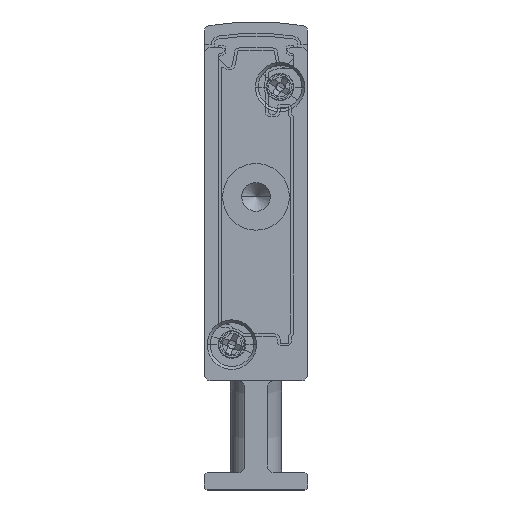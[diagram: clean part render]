
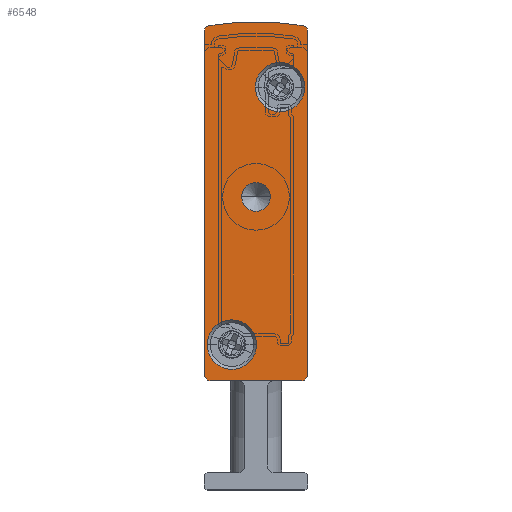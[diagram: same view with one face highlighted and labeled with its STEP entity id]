
A CAD part, front view. The second image highlights one B-rep face of the part: STEP entity #6548.
In plain terms, the highlighted planar face has unit normal (0, -1, 0).
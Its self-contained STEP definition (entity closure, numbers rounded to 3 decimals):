
#19 = DIRECTION ( 'NONE',  ( 1., 0., 0. ) ) ;
#173 = CARTESIAN_POINT ( 'NONE',  ( 0., -2.5, 39.902 ) ) ;
#204 = CARTESIAN_POINT ( 'NONE',  ( 3.25, -2.5, 25.5 ) ) ;
#367 = AXIS2_PLACEMENT_3D ( 'NONE', #15614, #6646, #6521 ) ;
#454 = ORIENTED_EDGE ( 'NONE', *, *, #4058, .F. ) ;
#587 = VERTEX_POINT ( 'NONE', #173 ) ;
#608 = DIRECTION ( 'NONE',  ( 0., 1., 0. ) ) ;
#1045 = DIRECTION ( 'NONE',  ( 0., 0., 1. ) ) ;
#1383 = DIRECTION ( 'NONE',  ( 1., 0., 0. ) ) ;
#1515 = DIRECTION ( 'NONE',  ( 0., -1., 0. ) ) ;
#1533 = AXIS2_PLACEMENT_3D ( 'NONE', #16609, #7715, #18139 ) ;
#1563 = FACE_BOUND ( 'NONE', #18233, .T. ) ;
#1727 = DIRECTION ( 'NONE',  ( 0., -1., 0. ) ) ;
#2355 = CARTESIAN_POINT ( 'NONE',  ( 9., -2.5, 10. ) ) ;
#2459 = CARTESIAN_POINT ( 'NONE',  ( 4.45, -2.5, 35.05 ) ) ;
#2589 = CARTESIAN_POINT ( 'NONE',  ( 9., -2.5, 39.902 ) ) ;
#2668 = LINE ( 'NONE', #5719, #3137 ) ;
#2708 = CARTESIAN_POINT ( 'NONE',  ( 0.5, -2.5, 39.902 ) ) ;
#2852 = EDGE_CURVE ( 'NONE', #7794, #12872, #12304, .T. ) ;
#2905 = CARTESIAN_POINT ( 'NONE',  ( 5.75, -2.5, 25.5 ) ) ;
#2996 = CARTESIAN_POINT ( 'NONE',  ( 9., -2.5, 39.902 ) ) ;
#3137 = VECTOR ( 'NONE', #13089, 1000. ) ;
#3443 = VERTEX_POINT ( 'NONE', #8989 ) ;
#3733 = CIRCLE ( 'NONE', #8947, 0.5 ) ;
#3795 = VERTEX_POINT ( 'NONE', #16052 ) ;
#3996 = VERTEX_POINT ( 'NONE', #2996 ) ;
#4058 = EDGE_CURVE ( 'NONE', #11256, #3996, #15436, .T. ) ;
#4439 = EDGE_LOOP ( 'NONE', ( #8502, #9771 ) ) ;
#5079 = EDGE_CURVE ( 'NONE', #9046, #8420, #16563, .T. ) ;
#5267 = CARTESIAN_POINT ( 'NONE',  ( 2.4, -2.5, 12.65 ) ) ;
#5420 = CARTESIAN_POINT ( 'NONE',  ( 0.5, -2.5, 39.902 ) ) ;
#5578 = AXIS2_PLACEMENT_3D ( 'NONE', #5420, #11440, #6941 ) ;
#5614 = DIRECTION ( 'NONE',  ( 0., 0., -1. ) ) ;
#5670 = ORIENTED_EDGE ( 'NONE', *, *, #5079, .F. ) ;
#5719 = CARTESIAN_POINT ( 'NONE',  ( 0.5, -2.5, 9.5 ) ) ;
#6125 = AXIS2_PLACEMENT_3D ( 'NONE', #5267, #8604, #11284 ) ;
#6188 = CIRCLE ( 'NONE', #19422, 0.5 ) ;
#6416 = DIRECTION ( 'NONE',  ( 0., 1., 0. ) ) ;
#6521 = DIRECTION ( 'NONE',  ( -1., 0., 0. ) ) ;
#6548 = ADVANCED_FACE ( 'NONE', ( #17739, #17025, #16057, #1563 ), #14714, .F. ) ;
#6576 = CARTESIAN_POINT ( 'NONE',  ( 4.5, -2.5, 17.092 ) ) ;
#6603 = EDGE_CURVE ( 'NONE', #3996, #13215, #10363, .T. ) ;
#6621 = EDGE_LOOP ( 'NONE', ( #7239, #16231, #16847, #17336, #13691, #15587, #454, #17769 ) ) ;
#6646 = DIRECTION ( 'NONE',  ( 0., 1., 0. ) ) ;
#6707 = CARTESIAN_POINT ( 'NONE',  ( 0.5, -2.5, 10. ) ) ;
#6765 = VECTOR ( 'NONE', #1045, 1000. ) ;
#6941 = DIRECTION ( 'NONE',  ( -1., 0., 0. ) ) ;
#7239 = ORIENTED_EDGE ( 'NONE', *, *, #14497, .F. ) ;
#7632 = EDGE_CURVE ( 'NONE', #14571, #10947, #12674, .T. ) ;
#7715 = DIRECTION ( 'NONE',  ( 0., 1., 0. ) ) ;
#7745 = VECTOR ( 'NONE', #5614, 1000. ) ;
#7794 = VERTEX_POINT ( 'NONE', #12625 ) ;
#8079 = EDGE_CURVE ( 'NONE', #12872, #7794, #18311, .T. ) ;
#8420 = VERTEX_POINT ( 'NONE', #2459 ) ;
#8492 = DIRECTION ( 'NONE',  ( 0., -1., 0. ) ) ;
#8502 = ORIENTED_EDGE ( 'NONE', *, *, #2852, .F. ) ;
#8604 = DIRECTION ( 'NONE',  ( 0., -1., 0. ) ) ;
#8691 = DIRECTION ( 'NONE',  ( 1., 0., 0. ) ) ;
#8947 = AXIS2_PLACEMENT_3D ( 'NONE', #2708, #16355, #16482 ) ;
#8989 = CARTESIAN_POINT ( 'NONE',  ( 0., -2.5, 10. ) ) ;
#9046 = VERTEX_POINT ( 'NONE', #17574 ) ;
#9610 = AXIS2_PLACEMENT_3D ( 'NONE', #12266, #6416, #13789 ) ;
#9647 = CARTESIAN_POINT ( 'NONE',  ( 0.5, -2.5, 9.5 ) ) ;
#9771 = ORIENTED_EDGE ( 'NONE', *, *, #8079, .F. ) ;
#10029 = VERTEX_POINT ( 'NONE', #15621 ) ;
#10213 = AXIS2_PLACEMENT_3D ( 'NONE', #10811, #1727, #19 ) ;
#10363 = LINE ( 'NONE', #2589, #7745 ) ;
#10674 = AXIS2_PLACEMENT_3D ( 'NONE', #6576, #608, #17081 ) ;
#10811 = CARTESIAN_POINT ( 'NONE',  ( 2.4, -2.5, 12.65 ) ) ;
#10836 = ORIENTED_EDGE ( 'NONE', *, *, #7632, .T. ) ;
#10947 = VERTEX_POINT ( 'NONE', #204 ) ;
#11256 = VERTEX_POINT ( 'NONE', #13125 ) ;
#11284 = DIRECTION ( 'NONE',  ( 1., 0., 0. ) ) ;
#11440 = DIRECTION ( 'NONE',  ( 0., 1., 0. ) ) ;
#11765 = EDGE_CURVE ( 'NONE', #13215, #10029, #16051, .T. ) ;
#11864 = CARTESIAN_POINT ( 'NONE',  ( 0., -2.5, 39.902 ) ) ;
#11876 = CARTESIAN_POINT ( 'NONE',  ( 6.6, -2.5, 35.05 ) ) ;
#12266 = CARTESIAN_POINT ( 'NONE',  ( 8.5, -2.5, 39.902 ) ) ;
#12304 = CIRCLE ( 'NONE', #6125, 2.15 ) ;
#12625 = CARTESIAN_POINT ( 'NONE',  ( 4.55, -2.5, 12.65 ) ) ;
#12674 = CIRCLE ( 'NONE', #1533, 1.25 ) ;
#12749 = ORIENTED_EDGE ( 'NONE', *, *, #13056, .T. ) ;
#12872 = VERTEX_POINT ( 'NONE', #13451 ) ;
#13056 = EDGE_CURVE ( 'NONE', #10947, #14571, #14545, .T. ) ;
#13089 = DIRECTION ( 'NONE',  ( -1., 0., 0. ) ) ;
#13125 = CARTESIAN_POINT ( 'NONE',  ( 8.592, -2.5, 40.393 ) ) ;
#13215 = VERTEX_POINT ( 'NONE', #2355 ) ;
#13300 = EDGE_CURVE ( 'NONE', #14921, #3443, #6188, .T. ) ;
#13451 = CARTESIAN_POINT ( 'NONE',  ( 0.25, -2.5, 12.65 ) ) ;
#13691 = ORIENTED_EDGE ( 'NONE', *, *, #11765, .F. ) ;
#13789 = DIRECTION ( 'NONE',  ( -1., 0., 0. ) ) ;
#13971 = DIRECTION ( 'NONE',  ( -1., 0., 0. ) ) ;
#14497 = EDGE_CURVE ( 'NONE', #587, #3795, #3733, .T. ) ;
#14545 = CIRCLE ( 'NONE', #367, 1.25 ) ;
#14571 = VERTEX_POINT ( 'NONE', #2905 ) ;
#14714 = PLANE ( 'NONE',  #5578 ) ;
#14921 = VERTEX_POINT ( 'NONE', #9647 ) ;
#15075 = EDGE_CURVE ( 'NONE', #10029, #14921, #2668, .T. ) ;
#15246 = AXIS2_PLACEMENT_3D ( 'NONE', #15742, #17298, #13971 ) ;
#15436 = CIRCLE ( 'NONE', #9610, 0.5 ) ;
#15587 = ORIENTED_EDGE ( 'NONE', *, *, #6603, .F. ) ;
#15614 = CARTESIAN_POINT ( 'NONE',  ( 4.5, -2.5, 25.5 ) ) ;
#15621 = CARTESIAN_POINT ( 'NONE',  ( 8.5, -2.5, 9.5 ) ) ;
#15742 = CARTESIAN_POINT ( 'NONE',  ( 8.5, -2.5, 10. ) ) ;
#15808 = EDGE_CURVE ( 'NONE', #3795, #11256, #16334, .T. ) ;
#16007 = DIRECTION ( 'NONE',  ( 0., 1., 0. ) ) ;
#16051 = CIRCLE ( 'NONE', #15246, 0.5 ) ;
#16052 = CARTESIAN_POINT ( 'NONE',  ( 0.408, -2.5, 40.393 ) ) ;
#16057 = FACE_OUTER_BOUND ( 'NONE', #6621, .T. ) ;
#16231 = ORIENTED_EDGE ( 'NONE', *, *, #16571, .F. ) ;
#16334 = CIRCLE ( 'NONE', #10674, 23.658 ) ;
#16355 = DIRECTION ( 'NONE',  ( 0., 1., 0. ) ) ;
#16482 = DIRECTION ( 'NONE',  ( -1., 0., 0. ) ) ;
#16563 = CIRCLE ( 'NONE', #16910, 2.15 ) ;
#16571 = EDGE_CURVE ( 'NONE', #3443, #587, #18631, .T. ) ;
#16609 = CARTESIAN_POINT ( 'NONE',  ( 4.5, -2.5, 25.5 ) ) ;
#16847 = ORIENTED_EDGE ( 'NONE', *, *, #13300, .F. ) ;
#16910 = AXIS2_PLACEMENT_3D ( 'NONE', #11876, #1515, #1383 ) ;
#17025 = FACE_BOUND ( 'NONE', #4439, .T. ) ;
#17081 = DIRECTION ( 'NONE',  ( -1., 0., 0. ) ) ;
#17298 = DIRECTION ( 'NONE',  ( 0., 1., 0. ) ) ;
#17336 = ORIENTED_EDGE ( 'NONE', *, *, #15075, .F. ) ;
#17574 = CARTESIAN_POINT ( 'NONE',  ( 8.75, -2.5, 35.05 ) ) ;
#17647 = EDGE_CURVE ( 'NONE', #8420, #9046, #19087, .T. ) ;
#17739 = FACE_BOUND ( 'NONE', #19057, .T. ) ;
#17769 = ORIENTED_EDGE ( 'NONE', *, *, #15808, .F. ) ;
#17846 = CARTESIAN_POINT ( 'NONE',  ( 6.6, -2.5, 35.05 ) ) ;
#18139 = DIRECTION ( 'NONE',  ( -1., 0., 0. ) ) ;
#18233 = EDGE_LOOP ( 'NONE', ( #12749, #10836 ) ) ;
#18311 = CIRCLE ( 'NONE', #10213, 2.15 ) ;
#18631 = LINE ( 'NONE', #11864, #6765 ) ;
#18855 = DIRECTION ( 'NONE',  ( -1., 0., 0. ) ) ;
#19057 = EDGE_LOOP ( 'NONE', ( #5670, #19356 ) ) ;
#19087 = CIRCLE ( 'NONE', #19258, 2.15 ) ;
#19258 = AXIS2_PLACEMENT_3D ( 'NONE', #17846, #8492, #8691 ) ;
#19356 = ORIENTED_EDGE ( 'NONE', *, *, #17647, .F. ) ;
#19422 = AXIS2_PLACEMENT_3D ( 'NONE', #6707, #16007, #18855 ) ;
